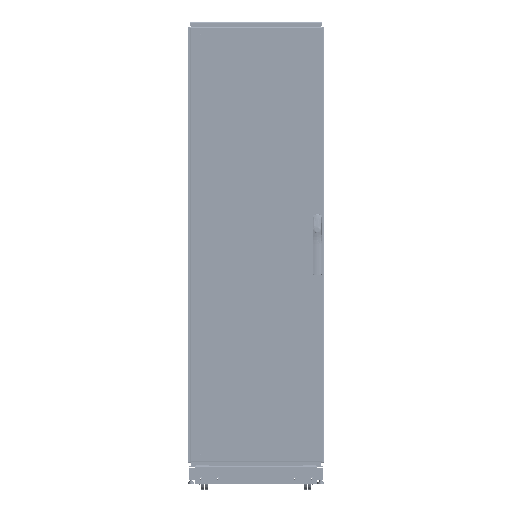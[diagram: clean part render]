
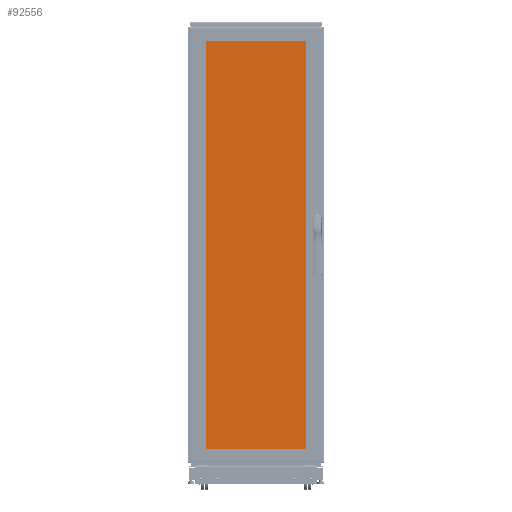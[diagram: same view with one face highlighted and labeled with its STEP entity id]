
A CAD part, top view. The second image highlights one B-rep face of the part: STEP entity #92556.
In plain terms, the highlighted planar face has unit normal (0, 0, 1) as drawn and (0, 0, -1) by its records, which use the part's own axes.
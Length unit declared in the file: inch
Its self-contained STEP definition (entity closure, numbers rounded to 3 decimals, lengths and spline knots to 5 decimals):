
#7161 = ORIENTED_EDGE ( 'NONE', *, *, #281852, .F. ) ;
#10856 = VERTEX_POINT ( 'NONE', #129682 ) ;
#20047 = PLANE ( 'NONE',  #121078 ) ;
#22005 = CARTESIAN_POINT ( 'NONE',  ( -9.22047, 36.22047, 0. ) ) ;
#23974 = VECTOR ( 'NONE', #194706, 39.37008 ) ;
#24943 = VECTOR ( 'NONE', #177788, 39.37008 ) ;
#41053 = EDGE_CURVE ( 'NONE', #102032, #10856, #83219, .T. ) ;
#63746 = ORIENTED_EDGE ( 'NONE', *, *, #262607, .F. ) ;
#73515 = ORIENTED_EDGE ( 'NONE', *, *, #274665, .F. ) ;
#74076 = EDGE_LOOP ( 'NONE', ( #73515, #63746, #168945, #7161 ) ) ;
#83219 = LINE ( 'NONE', #239478, #23974 ) ;
#84145 = LINE ( 'NONE', #22005, #24943 ) ;
#87241 = CARTESIAN_POINT ( 'NONE',  ( -9.22047, 36.22047, 0. ) ) ;
#90026 = DIRECTION ( 'NONE',  ( 0., -1., 0. ) ) ;
#92556 = ADVANCED_FACE ( 'Face1', ( #250251 ), #20047, .F. ) ;
#102032 = VERTEX_POINT ( 'NONE', #253203 ) ;
#109669 = DIRECTION ( 'NONE',  ( 1., 0., 0. ) ) ;
#121078 = AXIS2_PLACEMENT_3D ( 'NONE', #87241, #243000, #109669 ) ;
#129682 = CARTESIAN_POINT ( 'NONE',  ( 9.22047, 36.22047, 0. ) ) ;
#143722 = CARTESIAN_POINT ( 'NONE',  ( -9.22047, -36.22047, 0. ) ) ;
#147284 = DIRECTION ( 'NONE',  ( 1., 0., 0. ) ) ;
#168945 = ORIENTED_EDGE ( 'NONE', *, *, #41053, .F. ) ;
#169340 = LINE ( 'NONE', #191988, #287751 ) ;
#177788 = DIRECTION ( 'NONE',  ( -1., 0., 0. ) ) ;
#191841 = VERTEX_POINT ( 'NONE', #233635 ) ;
#191988 = CARTESIAN_POINT ( 'NONE',  ( -9.22047, -36.22047, 0. ) ) ;
#194706 = DIRECTION ( 'NONE',  ( 0., 1., 0. ) ) ;
#211028 = VERTEX_POINT ( 'NONE', #143722 ) ;
#225060 = VECTOR ( 'NONE', #90026, 39.37008 ) ;
#232042 = LINE ( 'NONE', #245747, #225060 ) ;
#233635 = CARTESIAN_POINT ( 'NONE',  ( -9.22047, 36.22047, 0. ) ) ;
#239478 = CARTESIAN_POINT ( 'NONE',  ( 9.22047, 36.22047, 0. ) ) ;
#243000 = DIRECTION ( 'NONE',  ( 0., 0., 1. ) ) ;
#245747 = CARTESIAN_POINT ( 'NONE',  ( -9.22047, 36.22047, 0. ) ) ;
#250251 = FACE_OUTER_BOUND ( 'NONE', #74076, .T. ) ;
#253203 = CARTESIAN_POINT ( 'NONE',  ( 9.22047, -36.22047, 0. ) ) ;
#262607 = EDGE_CURVE ( 'NONE', #10856, #191841, #84145, .T. ) ;
#274665 = EDGE_CURVE ( 'NONE', #191841, #211028, #232042, .T. ) ;
#281852 = EDGE_CURVE ( 'NONE', #211028, #102032, #169340, .T. ) ;
#287751 = VECTOR ( 'NONE', #147284, 39.37008 ) ;
